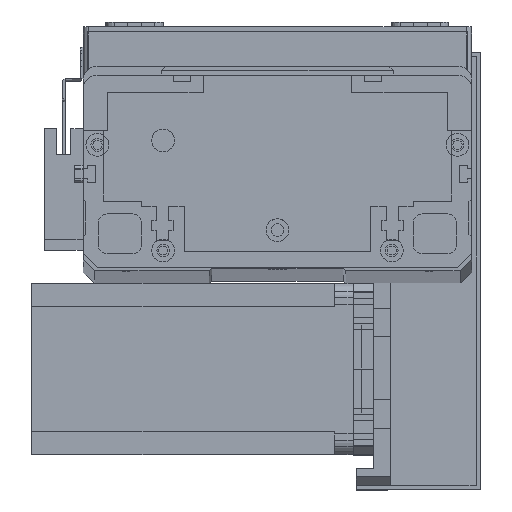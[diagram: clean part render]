
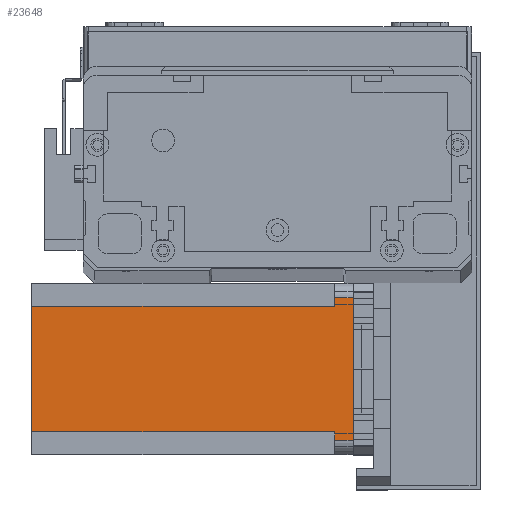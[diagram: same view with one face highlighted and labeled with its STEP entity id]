
A CAD part, top view. The second image highlights one B-rep face of the part: STEP entity #23648.
In plain terms, the highlighted planar face has unit normal (0, 0, 1) as drawn and (0, -1, 0) by its records, which use the part's own axes.
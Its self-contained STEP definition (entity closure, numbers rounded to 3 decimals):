
#389 = CARTESIAN_POINT ( 'NONE',  ( 8., 0., -6.5 ) ) ;
#833 = VERTEX_POINT ( 'NONE', #21024 ) ;
#861 = EDGE_LOOP ( 'NONE', ( #29871, #20898, #23680, #21364, #1179, #12091, #21447, #17075 ) ) ;
#1179 = ORIENTED_EDGE ( 'NONE', *, *, #13633, .F. ) ;
#1522 = CARTESIAN_POINT ( 'NONE',  ( 8., 0., -6.5 ) ) ;
#2423 = CARTESIAN_POINT ( 'NONE',  ( 52., 0., -112.5 ) ) ;
#2855 = VECTOR ( 'NONE', #16425, 1000. ) ;
#3252 = VERTEX_POINT ( 'NONE', #11499 ) ;
#3412 = VECTOR ( 'NONE', #23007, 1000. ) ;
#3447 = EDGE_CURVE ( 'NONE', #6486, #21630, #29061, .T. ) ;
#3729 = EDGE_CURVE ( 'NONE', #3252, #26730, #21943, .T. ) ;
#4794 = DIRECTION ( 'NONE',  ( 0., -1., 0. ) ) ;
#5159 = CARTESIAN_POINT ( 'NONE',  ( 5., 0., 0. ) ) ;
#5635 = DIRECTION ( 'NONE',  ( 1., 0., 0. ) ) ;
#5638 = LINE ( 'NONE', #25150, #23120 ) ;
#6366 = FACE_OUTER_BOUND ( 'NONE', #861, .T. ) ;
#6486 = VERTEX_POINT ( 'NONE', #5159 ) ;
#7223 = CARTESIAN_POINT ( 'NONE',  ( 8., 0., -112.5 ) ) ;
#7390 = DIRECTION ( 'NONE',  ( 0., 0., -1. ) ) ;
#8815 = EDGE_CURVE ( 'NONE', #17692, #26730, #20167, .T. ) ;
#9048 = AXIS2_PLACEMENT_3D ( 'NONE', #28270, #4794, #21539 ) ;
#9391 = CARTESIAN_POINT ( 'NONE',  ( 5., 0., -112.5 ) ) ;
#10428 = VECTOR ( 'NONE', #16231, 1000. ) ;
#11499 = CARTESIAN_POINT ( 'NONE',  ( 8., 0., -112.5 ) ) ;
#11987 = PLANE ( 'NONE',  #9048 ) ;
#12091 = ORIENTED_EDGE ( 'NONE', *, *, #13803, .F. ) ;
#12557 = LINE ( 'NONE', #9391, #30359 ) ;
#12803 = EDGE_CURVE ( 'NONE', #6486, #17902, #12557, .T. ) ;
#12822 = CARTESIAN_POINT ( 'NONE',  ( 52., 0., -6.5 ) ) ;
#13525 = DIRECTION ( 'NONE',  ( 0., 0., 1. ) ) ;
#13633 = EDGE_CURVE ( 'NONE', #15698, #17902, #28498, .T. ) ;
#13803 = EDGE_CURVE ( 'NONE', #3252, #15698, #23512, .T. ) ;
#13845 = VECTOR ( 'NONE', #7390, 1000. ) ;
#14233 = DIRECTION ( 'NONE',  ( 0., 0., -1. ) ) ;
#15698 = VERTEX_POINT ( 'NONE', #389 ) ;
#16129 = CARTESIAN_POINT ( 'NONE',  ( 0., 0., -112.5 ) ) ;
#16231 = DIRECTION ( 'NONE',  ( 1., 0., 0. ) ) ;
#16423 = CARTESIAN_POINT ( 'NONE',  ( 5., 0., -6.5 ) ) ;
#16425 = DIRECTION ( 'NONE',  ( 1., 0., 0. ) ) ;
#16896 = DIRECTION ( 'NONE',  ( 0., 0., 1. ) ) ;
#16920 = CARTESIAN_POINT ( 'NONE',  ( 55., 0., 0. ) ) ;
#17075 = ORIENTED_EDGE ( 'NONE', *, *, #8815, .F. ) ;
#17130 = CARTESIAN_POINT ( 'NONE',  ( 52., 0., -112.5 ) ) ;
#17692 = VERTEX_POINT ( 'NONE', #17877 ) ;
#17877 = CARTESIAN_POINT ( 'NONE',  ( 52., 0., -6.5 ) ) ;
#17902 = VERTEX_POINT ( 'NONE', #16423 ) ;
#18015 = VECTOR ( 'NONE', #5635, 1000. ) ;
#20167 = LINE ( 'NONE', #2423, #13845 ) ;
#20898 = ORIENTED_EDGE ( 'NONE', *, *, #27795, .T. ) ;
#21024 = CARTESIAN_POINT ( 'NONE',  ( 55., 0., -6.5 ) ) ;
#21264 = CARTESIAN_POINT ( 'NONE',  ( 0., 0., 0. ) ) ;
#21364 = ORIENTED_EDGE ( 'NONE', *, *, #12803, .T. ) ;
#21447 = ORIENTED_EDGE ( 'NONE', *, *, #3729, .T. ) ;
#21539 = DIRECTION ( 'NONE',  ( 0., 0., -1. ) ) ;
#21630 = VERTEX_POINT ( 'NONE', #16920 ) ;
#21943 = LINE ( 'NONE', #16129, #2855 ) ;
#23007 = DIRECTION ( 'NONE',  ( -1., 0., 0. ) ) ;
#23120 = VECTOR ( 'NONE', #13525, 1000. ) ;
#23512 = LINE ( 'NONE', #7223, #28846 ) ;
#23648 = ADVANCED_FACE ( 'NONE', ( #6366 ), #11987, .T. ) ;
#23680 = ORIENTED_EDGE ( 'NONE', *, *, #3447, .F. ) ;
#23837 = EDGE_CURVE ( 'NONE', #17692, #833, #24174, .T. ) ;
#24174 = LINE ( 'NONE', #12822, #18015 ) ;
#25150 = CARTESIAN_POINT ( 'NONE',  ( 55., 0., -112.5 ) ) ;
#26730 = VERTEX_POINT ( 'NONE', #17130 ) ;
#27795 = EDGE_CURVE ( 'NONE', #833, #21630, #5638, .T. ) ;
#28270 = CARTESIAN_POINT ( 'NONE',  ( 0., 0., -112.5 ) ) ;
#28498 = LINE ( 'NONE', #1522, #3412 ) ;
#28846 = VECTOR ( 'NONE', #16896, 1000. ) ;
#29061 = LINE ( 'NONE', #21264, #10428 ) ;
#29871 = ORIENTED_EDGE ( 'NONE', *, *, #23837, .T. ) ;
#30359 = VECTOR ( 'NONE', #14233, 1000. ) ;
